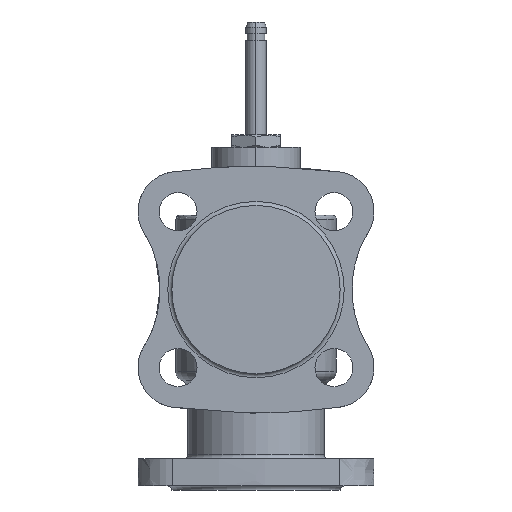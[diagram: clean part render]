
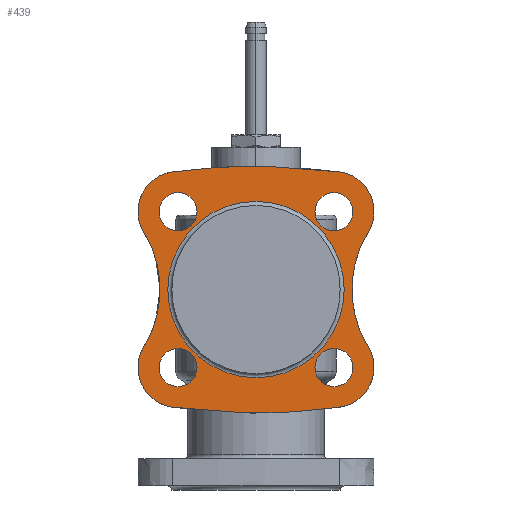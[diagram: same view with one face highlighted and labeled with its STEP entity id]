
A CAD part, left-side view. The second image highlights one B-rep face of the part: STEP entity #439.
In plain terms, the highlighted planar face has unit normal (-1, 0, 0).
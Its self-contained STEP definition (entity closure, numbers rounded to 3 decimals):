
#439=ADVANCED_FACE('',(#690,#691,#692,#693,#694,#695),#571,.T.);
#571=PLANE('',#2170);
#602=B_SPLINE_CURVE_WITH_KNOTS('',3,(#2938,#2939,#2940,#2941,#2942,#2943),
 .UNSPECIFIED.,.F.,.F.,(4,2,4),(0.,0.5,1.),.UNSPECIFIED.);
#603=B_SPLINE_CURVE_WITH_KNOTS('',3,(#2946,#2947,#2948,#2949,#2950,#2951,
#2952,#2953,#2954,#2955),.UNSPECIFIED.,.F.,.F.,(4,2,2,2,4),(0.,0.25,0.5,
0.75,1.),.UNSPECIFIED.);
#604=B_SPLINE_CURVE_WITH_KNOTS('',3,(#2957,#2958,#2959,#2960,#2961,#2962,
#2963,#2964,#2965,#2966),.UNSPECIFIED.,.F.,.F.,(4,2,2,2,4),(0.,0.25,0.5,
0.75,1.),.UNSPECIFIED.);
#605=B_SPLINE_CURVE_WITH_KNOTS('',3,(#2968,#2969,#2970,#2971,#2972,#2973,
#2974,#2975,#2976,#2977),.UNSPECIFIED.,.F.,.F.,(4,2,2,2,4),(0.,0.25,0.5,
0.75,1.),.UNSPECIFIED.);
#606=B_SPLINE_CURVE_WITH_KNOTS('',3,(#2979,#2980,#2981,#2982,#2983,#2984),
 .UNSPECIFIED.,.F.,.F.,(4,2,4),(0.,0.5,1.),.UNSPECIFIED.);
#607=B_SPLINE_CURVE_WITH_KNOTS('',3,(#2986,#2987,#2988,#2989,#2990,#2991,
#2992,#2993,#2994,#2995),.UNSPECIFIED.,.F.,.F.,(4,2,2,2,4),(0.,0.25,0.5,
0.75,1.),.UNSPECIFIED.);
#608=B_SPLINE_CURVE_WITH_KNOTS('',3,(#2997,#2998,#2999,#3000,#3001,#3002,
#3003,#3004,#3005,#3006),.UNSPECIFIED.,.F.,.F.,(4,2,2,2,4),(0.,0.25,0.5,
0.75,1.),.UNSPECIFIED.);
#609=B_SPLINE_CURVE_WITH_KNOTS('',3,(#3008,#3009,#3010,#3011,#3012,#3013,
#3014,#3015,#3016,#3017),.UNSPECIFIED.,.F.,.F.,(4,2,2,2,4),(0.,0.25,0.5,
0.75,1.),.UNSPECIFIED.);
#690=FACE_BOUND('',#796,.T.);
#691=FACE_BOUND('',#797,.T.);
#692=FACE_BOUND('',#798,.T.);
#693=FACE_BOUND('',#799,.T.);
#694=FACE_BOUND('',#800,.T.);
#695=FACE_BOUND('',#801,.T.);
#796=EDGE_LOOP('',(#994));
#797=EDGE_LOOP('',(#995));
#798=EDGE_LOOP('',(#996));
#799=EDGE_LOOP('',(#997));
#800=EDGE_LOOP('',(#998));
#801=EDGE_LOOP('',(#999,#1000,#1001,#1002,#1003,#1004,#1005,#1006));
#994=ORIENTED_EDGE('',*,*,#1758,.F.);
#995=ORIENTED_EDGE('',*,*,#1759,.F.);
#996=ORIENTED_EDGE('',*,*,#1760,.F.);
#997=ORIENTED_EDGE('',*,*,#1761,.F.);
#998=ORIENTED_EDGE('',*,*,#1762,.T.);
#999=ORIENTED_EDGE('',*,*,#1763,.T.);
#1000=ORIENTED_EDGE('',*,*,#1764,.T.);
#1001=ORIENTED_EDGE('',*,*,#1765,.T.);
#1002=ORIENTED_EDGE('',*,*,#1766,.T.);
#1003=ORIENTED_EDGE('',*,*,#1767,.T.);
#1004=ORIENTED_EDGE('',*,*,#1768,.T.);
#1005=ORIENTED_EDGE('',*,*,#1769,.T.);
#1006=ORIENTED_EDGE('',*,*,#1770,.T.);
#1562=VERTEX_POINT('',#2929);
#1563=VERTEX_POINT('',#2931);
#1564=VERTEX_POINT('',#2933);
#1565=VERTEX_POINT('',#2935);
#1566=VERTEX_POINT('',#2937);
#1567=VERTEX_POINT('',#2944);
#1568=VERTEX_POINT('',#2945);
#1569=VERTEX_POINT('',#2956);
#1570=VERTEX_POINT('',#2967);
#1571=VERTEX_POINT('',#2978);
#1572=VERTEX_POINT('',#2985);
#1573=VERTEX_POINT('',#2996);
#1574=VERTEX_POINT('',#3007);
#1758=EDGE_CURVE('',#1562,#1562,#2042,.T.);
#1759=EDGE_CURVE('',#1563,#1563,#2043,.T.);
#1760=EDGE_CURVE('',#1564,#1564,#2044,.T.);
#1761=EDGE_CURVE('',#1565,#1565,#2045,.T.);
#1762=EDGE_CURVE('',#1566,#1566,#2046,.T.);
#1763=EDGE_CURVE('',#1567,#1568,#602,.T.);
#1764=EDGE_CURVE('',#1568,#1569,#603,.T.);
#1765=EDGE_CURVE('',#1569,#1570,#604,.T.);
#1766=EDGE_CURVE('',#1570,#1571,#605,.T.);
#1767=EDGE_CURVE('',#1571,#1572,#606,.T.);
#1768=EDGE_CURVE('',#1572,#1573,#607,.T.);
#1769=EDGE_CURVE('',#1573,#1574,#608,.T.);
#1770=EDGE_CURVE('',#1574,#1567,#609,.T.);
#2042=CIRCLE('',#2165,9.5);
#2043=CIRCLE('',#2166,9.5);
#2044=CIRCLE('',#2167,9.5);
#2045=CIRCLE('',#2168,9.5);
#2046=CIRCLE('',#2169,44.);
#2165=AXIS2_PLACEMENT_3D('',#2928,#2385,#2386);
#2166=AXIS2_PLACEMENT_3D('',#2930,#2387,#2388);
#2167=AXIS2_PLACEMENT_3D('',#2932,#2389,#2390);
#2168=AXIS2_PLACEMENT_3D('',#2934,#2391,#2392);
#2169=AXIS2_PLACEMENT_3D('',#2936,#2393,#2394);
#2170=AXIS2_PLACEMENT_3D('',#3018,#2395,#2396);
#2385=DIRECTION('',(-1.,0.,0.));
#2386=DIRECTION('',(0.,0.,1.));
#2387=DIRECTION('',(-1.,0.,0.));
#2388=DIRECTION('',(0.,0.,1.));
#2389=DIRECTION('',(-1.,0.,0.));
#2390=DIRECTION('',(0.,0.,1.));
#2391=DIRECTION('',(-1.,0.,0.));
#2392=DIRECTION('',(0.,0.,1.));
#2393=DIRECTION('',(1.,0.,0.));
#2394=DIRECTION('',(0.,0.,1.));
#2395=DIRECTION('',(-1.,0.,0.));
#2396=DIRECTION('',(0.,0.,1.));
#2928=CARTESIAN_POINT('',(112.5,38.891,38.891));
#2929=CARTESIAN_POINT('',(112.5,38.891,48.391));
#2930=CARTESIAN_POINT('',(112.5,-38.891,38.891));
#2931=CARTESIAN_POINT('',(112.5,-38.891,48.391));
#2932=CARTESIAN_POINT('',(112.5,-38.891,-38.891));
#2933=CARTESIAN_POINT('',(112.5,-38.891,-29.391));
#2934=CARTESIAN_POINT('',(112.5,38.891,-38.891));
#2935=CARTESIAN_POINT('',(112.5,38.891,-29.391));
#2936=CARTESIAN_POINT('',(112.5,0.,0.));
#2937=CARTESIAN_POINT('',(112.5,0.,44.));
#2938=CARTESIAN_POINT('',(112.5,-41.669,58.697));
#2939=CARTESIAN_POINT('',(112.5,-27.855,60.634));
#2940=CARTESIAN_POINT('',(112.5,-13.923,61.606));
#2941=CARTESIAN_POINT('',(112.5,13.974,61.604));
#2942=CARTESIAN_POINT('',(112.5,27.855,60.634));
#2943=CARTESIAN_POINT('',(112.5,41.669,58.697));
#2944=CARTESIAN_POINT('',(112.5,-41.669,58.697));
#2945=CARTESIAN_POINT('',(112.5,41.669,58.697));
#2946=CARTESIAN_POINT('',(112.5,41.669,58.697));
#2947=CARTESIAN_POINT('',(112.5,44.975,58.233));
#2948=CARTESIAN_POINT('',(112.5,48.112,56.941));
#2949=CARTESIAN_POINT('',(112.5,53.41,53.034));
#2950=CARTESIAN_POINT('',(112.5,55.574,50.413));
#2951=CARTESIAN_POINT('',(112.5,58.406,44.389));
#2952=CARTESIAN_POINT('',(112.5,59.046,41.043));
#2953=CARTESIAN_POINT('',(112.5,58.672,34.468));
#2954=CARTESIAN_POINT('',(112.5,57.661,31.22));
#2955=CARTESIAN_POINT('',(112.5,55.906,28.38));
#2956=CARTESIAN_POINT('',(112.5,55.906,28.38));
#2957=CARTESIAN_POINT('',(112.5,55.906,28.38));
#2958=CARTESIAN_POINT('',(112.5,53.266,24.105));
#2959=CARTESIAN_POINT('',(112.5,51.272,19.569));
#2960=CARTESIAN_POINT('',(112.5,48.545,9.986));
#2961=CARTESIAN_POINT('',(112.5,47.85,4.992));
#2962=CARTESIAN_POINT('',(112.5,47.844,-4.925));
#2963=CARTESIAN_POINT('',(112.5,48.542,-9.956));
#2964=CARTESIAN_POINT('',(112.5,51.243,-19.488));
#2965=CARTESIAN_POINT('',(112.5,53.266,-24.105));
#2966=CARTESIAN_POINT('',(112.5,55.906,-28.38));
#2967=CARTESIAN_POINT('',(112.5,55.906,-28.38));
#2968=CARTESIAN_POINT('',(112.5,55.906,-28.38));
#2969=CARTESIAN_POINT('',(112.5,57.661,-31.22));
#2970=CARTESIAN_POINT('',(112.5,58.67,-34.46));
#2971=CARTESIAN_POINT('',(112.5,59.047,-41.032));
#2972=CARTESIAN_POINT('',(112.5,58.411,-44.371));
#2973=CARTESIAN_POINT('',(112.5,55.585,-50.397));
#2974=CARTESIAN_POINT('',(112.5,53.418,-53.026));
#2975=CARTESIAN_POINT('',(112.5,48.12,-56.937));
#2976=CARTESIAN_POINT('',(112.5,44.975,-58.233));
#2977=CARTESIAN_POINT('',(112.5,41.669,-58.697));
#2978=CARTESIAN_POINT('',(112.5,41.669,-58.697));
#2979=CARTESIAN_POINT('',(112.5,41.669,-58.697));
#2980=CARTESIAN_POINT('',(112.5,27.855,-60.634));
#2981=CARTESIAN_POINT('',(112.5,13.923,-61.606));
#2982=CARTESIAN_POINT('',(112.5,-13.974,-61.604));
#2983=CARTESIAN_POINT('',(112.5,-27.855,-60.634));
#2984=CARTESIAN_POINT('',(112.5,-41.669,-58.697));
#2985=CARTESIAN_POINT('',(112.5,-41.669,-58.697));
#2986=CARTESIAN_POINT('',(112.5,-41.669,-58.697));
#2987=CARTESIAN_POINT('',(112.5,-44.975,-58.233));
#2988=CARTESIAN_POINT('',(112.5,-48.113,-56.941));
#2989=CARTESIAN_POINT('',(112.5,-53.411,-53.033));
#2990=CARTESIAN_POINT('',(112.5,-55.575,-50.412));
#2991=CARTESIAN_POINT('',(112.5,-58.406,-44.388));
#2992=CARTESIAN_POINT('',(112.5,-59.046,-41.041));
#2993=CARTESIAN_POINT('',(112.5,-58.671,-34.467));
#2994=CARTESIAN_POINT('',(112.5,-57.661,-31.22));
#2995=CARTESIAN_POINT('',(112.5,-55.906,-28.38));
#2996=CARTESIAN_POINT('',(112.5,-55.906,-28.38));
#2997=CARTESIAN_POINT('',(112.5,-55.906,-28.38));
#2998=CARTESIAN_POINT('',(112.5,-53.266,-24.105));
#2999=CARTESIAN_POINT('',(112.5,-51.272,-19.569));
#3000=CARTESIAN_POINT('',(112.5,-48.545,-9.986));
#3001=CARTESIAN_POINT('',(112.5,-47.85,-4.992));
#3002=CARTESIAN_POINT('',(112.5,-47.844,4.925));
#3003=CARTESIAN_POINT('',(112.5,-48.542,9.956));
#3004=CARTESIAN_POINT('',(112.5,-51.243,19.488));
#3005=CARTESIAN_POINT('',(112.5,-53.266,24.105));
#3006=CARTESIAN_POINT('',(112.5,-55.906,28.38));
#3007=CARTESIAN_POINT('',(112.5,-55.906,28.38));
#3008=CARTESIAN_POINT('',(112.5,-55.906,28.38));
#3009=CARTESIAN_POINT('',(112.5,-57.661,31.22));
#3010=CARTESIAN_POINT('',(112.5,-58.67,34.46));
#3011=CARTESIAN_POINT('',(112.5,-59.046,41.033));
#3012=CARTESIAN_POINT('',(112.5,-58.411,44.372));
#3013=CARTESIAN_POINT('',(112.5,-55.584,50.398));
#3014=CARTESIAN_POINT('',(112.5,-53.417,53.027));
#3015=CARTESIAN_POINT('',(112.5,-48.119,56.938));
#3016=CARTESIAN_POINT('',(112.5,-44.975,58.233));
#3017=CARTESIAN_POINT('',(112.5,-41.669,58.697));
#3018=CARTESIAN_POINT('',(112.5,0.,0.));
